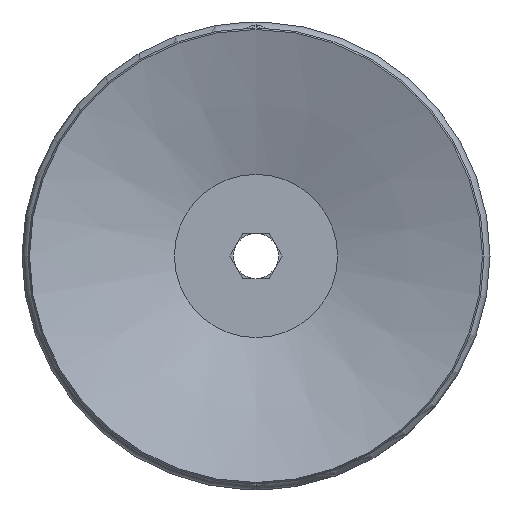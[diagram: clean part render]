
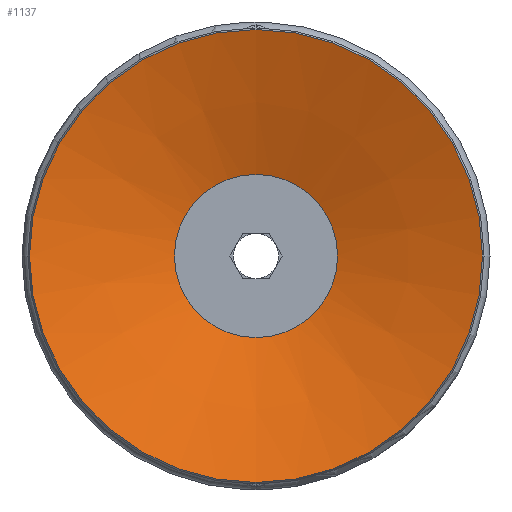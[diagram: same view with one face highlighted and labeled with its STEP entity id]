
A CAD part, front view. The second image highlights one B-rep face of the part: STEP entity #1137.
In plain terms, the highlighted conical face has half-angle 71.075 degrees and reference radius 15 mm.
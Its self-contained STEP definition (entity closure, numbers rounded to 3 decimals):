
#1137=ADVANCED_FACE('',(#2865,#2866),#2867,.F.);
#2865=FACE_BOUND('',#5276,.T.);
#2866=FACE_OUTER_BOUND('',#5277,.T.);
#2867=CONICAL_SURFACE('',#5278,15.0,1.24);
#5276=EDGE_LOOP('',(#8579));
#5277=EDGE_LOOP('',(#8580));
#5278=AXIS2_PLACEMENT_3D('',#8581,#8582,#8583);
#8579=ORIENTED_EDGE('',*,*,#15593,.T.);
#8580=ORIENTED_EDGE('',*,*,#15594,.T.);
#8581=CARTESIAN_POINT('',(0.,0.,0.0));
#8582=DIRECTION('',(0.0,0.,-1.0));
#8583=DIRECTION('',(0.0,1.0,0.));
#15593=EDGE_CURVE('',#19198,#19198,#19199,.T.);
#15594=EDGE_CURVE('',#19200,#19200,#19201,.T.);
#19198=VERTEX_POINT('',#25355);
#19199=CIRCLE('',#25356,5.4);
#19200=VERTEX_POINT('',#25357);
#19201=CIRCLE('',#25358,15.0);
#25355=CARTESIAN_POINT('',(-5.4,0.,3.291));
#25356=AXIS2_PLACEMENT_3D('',#30964,#30965,#30966);
#25357=CARTESIAN_POINT('',(0.,15.0,0.));
#25358=AXIS2_PLACEMENT_3D('',#30967,#30968,#30969);
#30964=CARTESIAN_POINT('',(0.,0.,3.291));
#30965=DIRECTION('',(0.,0.0,1.0));
#30966=DIRECTION('',(-1.0,0.0,0.));
#30967=CARTESIAN_POINT('',(0.,0.,0.0));
#30968=DIRECTION('',(0.0,0.,-1.0));
#30969=DIRECTION('',(0.0,1.0,0.));
